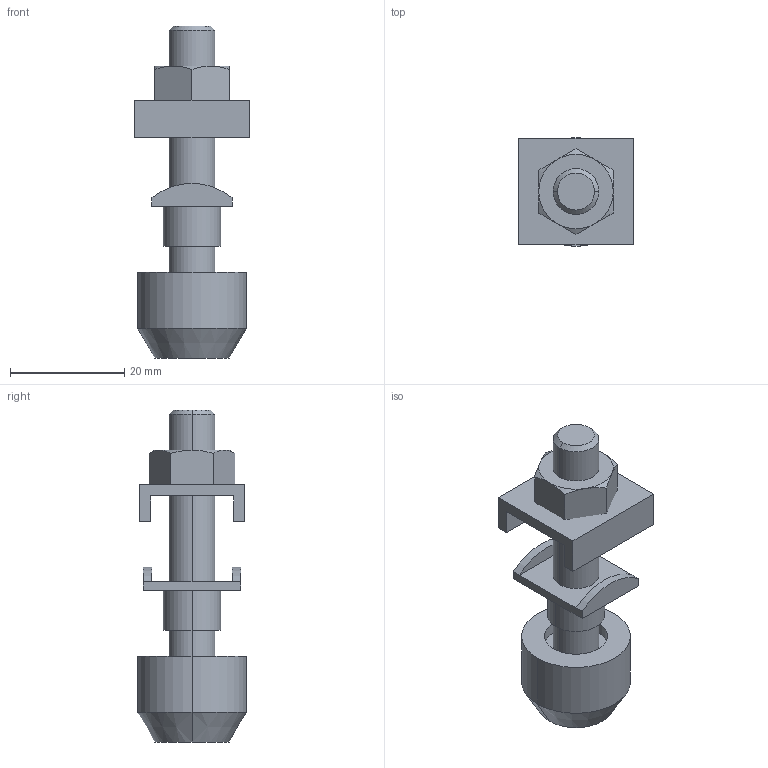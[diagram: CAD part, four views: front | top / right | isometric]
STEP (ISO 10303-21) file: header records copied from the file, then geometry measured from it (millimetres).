
FILE_DESCRIPTION(('STEP AP214'),'1');
FILE_NAME('cctmp_5BE0E259-304C-4EE2-AF78-CF8DB31BBBC6_2020_7_6_11_10_8_533..stp','2020-07-06T09:10:08',('Meusburger Georg GmbH & Co KG'),('CADClick - www.CADClick.com'),'Spatial InterOp 3D',' ','unknown authorization');
FILE_SCHEMA(('AUTOMOTIVE_DESIGN { 1 0 10303 214 1 1 1 1 }'));
Length unit declared in the file: millimetre
Products named in the file (6): HWS 2002_3; E 90200_8
Assembly tree (5 placements, depth 2):
  HWS 2002_3
    E 90200_8
    HWS 2002_3
    HWS 2002_3
    HWS 2002_3
    HWS 2002_3
Bounding box: 20 x 19 x 58 mm (x, y, z)
Volume: 8125.3 mm3; surface area: 6280.8 mm2
Topology: 5 solids, 5 shells, 82 faces, 176 edges, 108 vertices
Faces by surface type: plane 40, cone 24, cylinder 18
Entity records: 3055 total; most frequent: CARTESIAN_POINT 468, DIRECTION 388, ORIENTED_EDGE 352, EDGE_CURVE 176, AXIS2_PLACEMENT_3D 148, VERTEX_POINT 108, EDGE_LOOP 92, LINE 92
